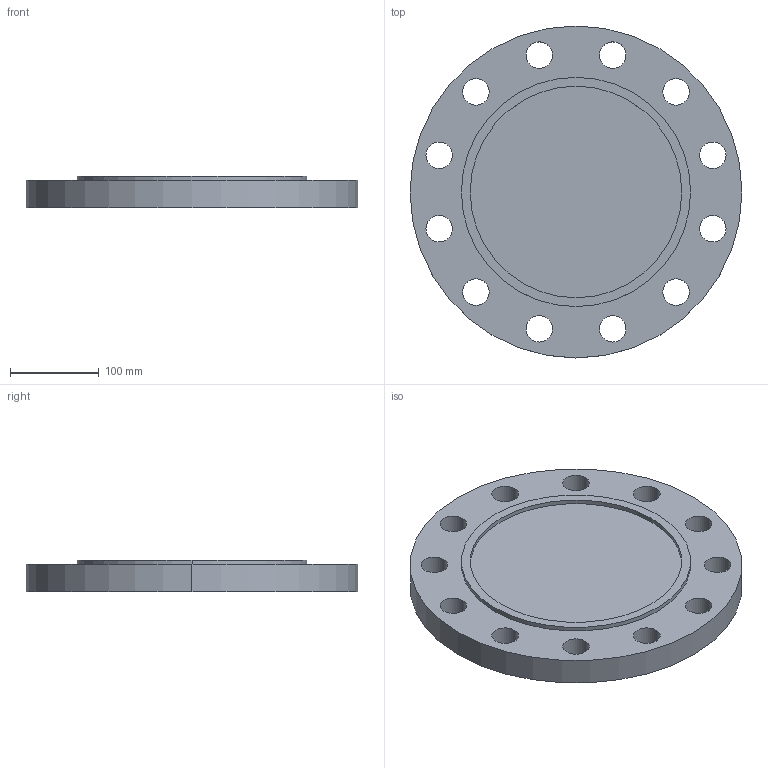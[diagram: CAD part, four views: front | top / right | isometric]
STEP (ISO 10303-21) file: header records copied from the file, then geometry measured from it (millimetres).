
FILE_DESCRIPTION (( 'STEP AP214' ), '1' );
FILE_NAME ('PN40 DN200 Type 05 - Type C Face.STEP', '2019-01-05T02:24:53', ( '' ), ( '' ), 'SwSTEP 2.0', 'SolidWorks 2019', '' );
FILE_SCHEMA (( 'AUTOMOTIVE_DESIGN' ));
Length unit declared in the file: millimetre
Products named in the file (1): PN40 DN200 Type 05 - Type C Face
Bounding box: 375 x 375 x 36 mm (x, y, z)
Volume: 3200006.6 mm3; surface area: 283332.4 mm2
Topology: 1 solids, 1 shells, 34 faces, 90 edges, 60 vertices
Faces by surface type: cylinder 30, plane 4
Entity records: 1176 total; most frequent: DIRECTION 220, CARTESIAN_POINT 185, ORIENTED_EDGE 180, AXIS2_PLACEMENT_3D 95, EDGE_CURVE 90, CIRCLE 60, EDGE_LOOP 60, VERTEX_POINT 60
